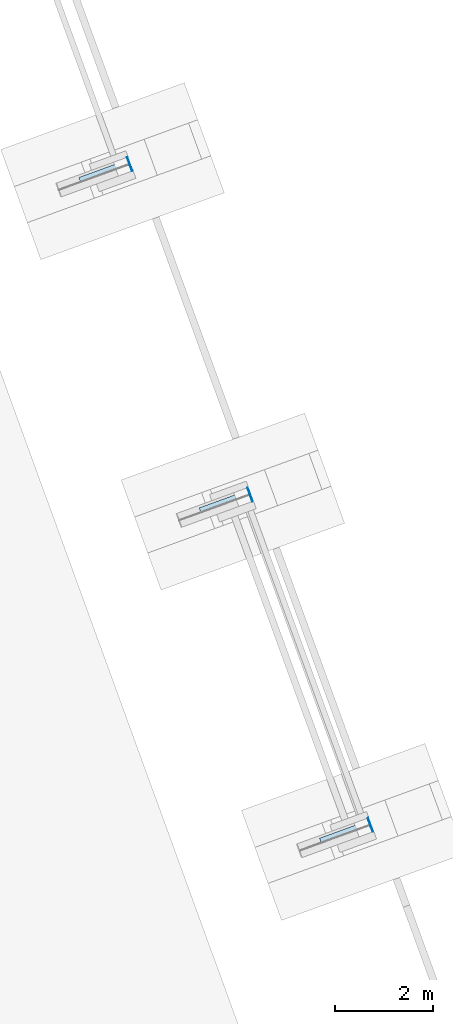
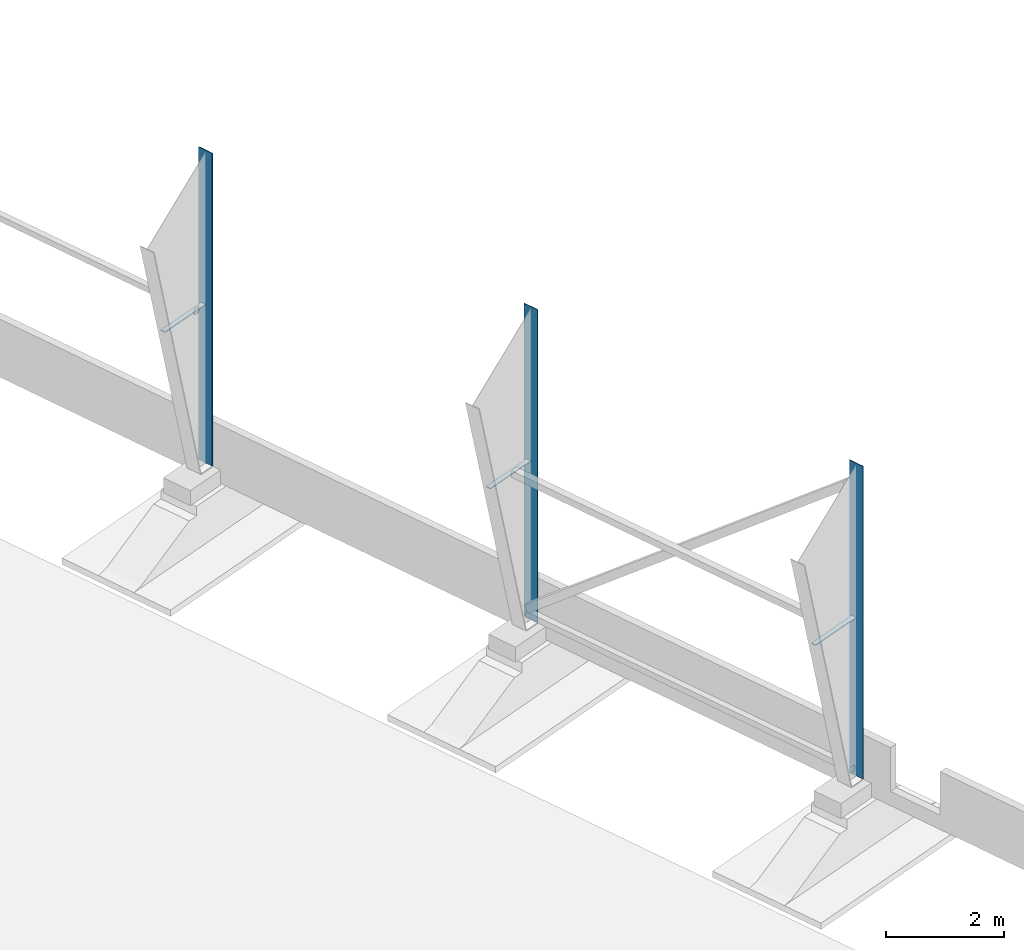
# One storey, part 16 of 20: 6 plates, 6 elements without a shape of their own.
"""IFC4 building model written with IfcOpenShell, lengths in millimetres."""

from ifc_helpers import new_model, si_unit, direction, frame, origin_with_axes, place, context, subcontext, project, spatial, polygons, material, element, aggregate, save


model = new_model("IFC4")

# Units and contexts
model_context = context("Model", 3, precision=0.2, world=frame((203566.813, 116264.779, 0.0), z_axis=(0.0, 0.0, 1.0), x_axis=(1.0, 0.0, 0.0)), true_north=direction((-0.9396138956, -0.3422363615)))
body_context = subcontext(model_context, "Body", "Model", "MODEL_VIEW")
ifc_project = project(units=[si_unit("LENGTHUNIT", "METRE", prefix="MILLI"), si_unit("AREAUNIT", "SQUARE_METRE"), si_unit("VOLUMEUNIT", "CUBIC_METRE"), si_unit("MASSUNIT", "GRAM", prefix="KILO"), si_unit("TIMEUNIT", "SECOND"), si_unit("PLANEANGLEUNIT", "RADIAN"), si_unit("SOLIDANGLEUNIT", "STERADIAN"), si_unit("THERMODYNAMICTEMPERATUREUNIT", "DEGREE_CELSIUS"), si_unit("LUMINOUSINTENSITYUNIT", "LUMEN")], contexts=[model_context])

# Site, building, storey
site_placement = place(None, origin_with_axes())
site = spatial("IfcSite", under=ifc_project, at=site_placement, Name="Nobelprojektet", CompositionType="ELEMENT")
building_placement = place(site_placement, origin_with_axes())
building = spatial("IfcBuilding", under=site, at=building_placement, Name="Hall B", CompositionType="ELEMENT")
storey_placement = place(building_placement, frame((0.0, 0.0, 1000.0), z_axis=(0.0, 0.0, 1.0), x_axis=(1.0, 0.0, 0.0)))
storey = spatial("IfcBuildingStorey", under=building, at=storey_placement, Name="Plan_1", CompositionType="ELEMENT", Elevation=1000.0)

# Assembly, plate
assembly_1_placement = place(storey_placement, frame((181823.881, 131988.20906, 132199.98642), z_axis=(0.9396136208, 0.3422371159, 0.0), x_axis=(0.0, 0.0, 1.0)))
assembly_1 = element("IfcElementAssembly", 1, at=assembly_1_placement, inside=storey, Name="BEF. STOMME", PredefinedType="NOTDEFINED")
ifc_material = material(Name="S355J2", Category="STEEL")
plate_1_placement = place(assembly_1_placement, frame((6473.48022, 0.0, 0.0), z_axis=(-1.0, 0.0, 0.0), x_axis=(0.0, 0.0, 1.0)))
plate_1 = element("IfcPlate", 2, at=plate_1_placement, material=ifc_material, Name="BEF. STOMME", PredefinedType="NOTDEFINED", context=body_context, shape_type="Tessellation", body=[
    polygons([(-7.5, -150.0, 6473.48022), (-7.5, 150.0, 6473.48022), (-7.5, 150.0, 0.0), (-7.5, -150.0, 0.0), (7.5, 150.0, 6473.48022), (7.5, 150.0, 0.0), (7.5, -150.0, 6473.48022), (7.5, -150.0, 0.0)], [[[1, 2, 3, 4]], [[2, 5, 6, 3]], [[5, 7, 8, 6]], [[7, 1, 4, 8]], [[6, 8, 4, 3]], [[7, 5, 2, 1]]], closed=True),
])
aggregate(assembly_1, [plate_1])

assembly_2_placement = place(storey_placement, frame((181799.72261, 132032.62317, 135472.48581), z_axis=(0.0, 0.0, 1.0), x_axis=(-0.9396136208, -0.3422371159, 0.0)))
assembly_2 = element("IfcElementAssembly", 3, at=assembly_2_placement, inside=storey, Name="BEF. STOMME", PredefinedType="NOTDEFINED")
plate_2_placement = place(assembly_2_placement, frame((1065.0, 0.0, 0.0), z_axis=(-1.0, 0.0, 0.0), x_axis=(0.0, 0.0, 1.0)))
plate_2 = element("IfcPlate", 4, at=plate_2_placement, material=ifc_material, Name="BEF. STOMME", PredefinedType="NOTDEFINED", context=body_context, shape_type="Tessellation", body=[
    polygons([(-7.5, -50.0, 1065.0), (-7.5, 50.0, 1065.0), (-7.5, 50.0, 0.0), (-7.5, -50.0, 0.0), (7.5, 50.0, 1065.0), (7.5, 50.0, 0.0), (7.5, -50.0, 1065.0), (7.5, -50.0, 0.0)], [[[1, 2, 3, 4]], [[2, 5, 6, 3]], [[5, 7, 8, 6]], [[7, 1, 4, 8]], [[6, 8, 4, 3]], [[7, 5, 2, 1]]], closed=True),
])
aggregate(assembly_2, [plate_2])

assembly_3_placement = place(storey_placement, frame((179359.77371, 138753.42738, 132199.98642), z_axis=(0.9396136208, 0.3422371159, 0.0), x_axis=(0.0, 0.0, 1.0)))
assembly_3 = element("IfcElementAssembly", 5, at=assembly_3_placement, inside=storey, Name="BEF. STOMME", PredefinedType="NOTDEFINED")
plate_3_placement = place(assembly_3_placement, frame((6473.48022, 0.0, 0.0), z_axis=(-1.0, 0.0, 0.0), x_axis=(0.0, 0.0, 1.0)))
plate_3 = element("IfcPlate", 6, at=plate_3_placement, material=ifc_material, Name="BEF. STOMME", PredefinedType="NOTDEFINED", context=body_context, shape_type="Tessellation", body=[
    polygons([(-7.5, -150.0, 6473.48022), (-7.5, 150.0, 6473.48022), (-7.5, 150.0, 0.0), (-7.5, -150.0, 0.0), (7.5, 150.0, 6473.48022), (7.5, 150.0, 0.0), (7.5, -150.0, 6473.48022), (7.5, -150.0, 0.0)], [[[1, 2, 3, 4]], [[2, 5, 6, 3]], [[5, 7, 8, 6]], [[7, 1, 4, 8]], [[6, 8, 4, 3]], [[7, 5, 2, 1]]], closed=True),
])
aggregate(assembly_3, [plate_3])

assembly_4_placement = place(storey_placement, frame((179335.61533, 138797.84149, 135472.48581), z_axis=(0.0, 0.0, 1.0), x_axis=(-0.9396136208, -0.3422371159, 0.0)))
assembly_4 = element("IfcElementAssembly", 7, at=assembly_4_placement, inside=storey, Name="BEF. STOMME", PredefinedType="NOTDEFINED")
plate_4_placement = place(assembly_4_placement, frame((1065.0, 0.0, 0.0), z_axis=(-1.0, 0.0, 0.0), x_axis=(0.0, 0.0, 1.0)))
plate_4 = element("IfcPlate", 8, at=plate_4_placement, material=ifc_material, Name="BEF. STOMME", PredefinedType="NOTDEFINED", context=body_context, shape_type="Tessellation", body=[
    polygons([(-7.5, -50.0, 1065.0), (-7.5, 50.0, 1065.0), (-7.5, 50.0, 0.0), (-7.5, -50.0, 0.0), (7.5, 50.0, 1065.0), (7.5, 50.0, 0.0), (7.5, -50.0, 1065.0), (7.5, -50.0, 0.0)], [[[1, 2, 3, 4]], [[2, 5, 6, 3]], [[5, 7, 8, 6]], [[7, 1, 4, 8]], [[6, 8, 4, 3]], [[7, 5, 2, 1]]], closed=True),
])
aggregate(assembly_4, [plate_4])

assembly_5_placement = place(storey_placement, frame((176895.66643, 145518.6457, 132199.98642), z_axis=(0.9396136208, 0.3422371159, 0.0), x_axis=(0.0, 0.0, 1.0)))
assembly_5 = element("IfcElementAssembly", 9, at=assembly_5_placement, inside=storey, Name="BEF. STOMME", PredefinedType="NOTDEFINED")
plate_5_placement = place(assembly_5_placement, frame((6473.48022, 0.0, 0.0), z_axis=(-1.0, 0.0, 0.0), x_axis=(0.0, 0.0, 1.0)))
plate_5 = element("IfcPlate", 10, at=plate_5_placement, material=ifc_material, Name="BEF. STOMME", PredefinedType="NOTDEFINED", context=body_context, shape_type="Tessellation", body=[
    polygons([(-7.5, -150.0, 6473.48022), (-7.5, 150.0, 6473.48022), (-7.5, 150.0, 0.0), (-7.5, -150.0, 0.0), (7.5, 150.0, 6473.48022), (7.5, 150.0, 0.0), (7.5, -150.0, 6473.48022), (7.5, -150.0, 0.0)], [[[1, 2, 3, 4]], [[2, 5, 6, 3]], [[5, 7, 8, 6]], [[7, 1, 4, 8]], [[6, 8, 4, 3]], [[7, 5, 2, 1]]], closed=True),
])
aggregate(assembly_5, [plate_5])

assembly_6_placement = place(storey_placement, frame((176871.50805, 145563.05982, 135472.48581), z_axis=(0.0, 0.0, 1.0), x_axis=(-0.9396136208, -0.3422371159, 0.0)))
assembly_6 = element("IfcElementAssembly", 11, at=assembly_6_placement, inside=storey, Name="BEF. STOMME", PredefinedType="NOTDEFINED")
plate_6_placement = place(assembly_6_placement, frame((1065.0, 0.0, 0.0), z_axis=(-1.0, 0.0, 0.0), x_axis=(0.0, 0.0, 1.0)))
plate_6 = element("IfcPlate", 12, at=plate_6_placement, material=ifc_material, Name="BEF. STOMME", PredefinedType="NOTDEFINED", context=body_context, shape_type="Tessellation", body=[
    polygons([(-7.5, -50.0, 1065.0), (-7.5, 50.0, 1065.0), (-7.5, 50.0, 0.0), (-7.5, -50.0, 0.0), (7.5, 50.0, 1065.0), (7.5, 50.0, 0.0), (7.5, -50.0, 1065.0), (7.5, -50.0, 0.0)], [[[1, 2, 3, 4]], [[2, 5, 6, 3]], [[5, 7, 8, 6]], [[7, 1, 4, 8]], [[6, 8, 4, 3]], [[7, 5, 2, 1]]], closed=True),
])
aggregate(assembly_6, [plate_6])

save(model, "model.ifc")
